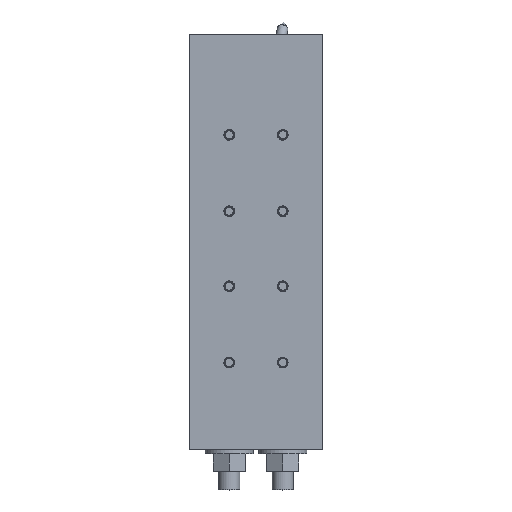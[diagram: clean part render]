
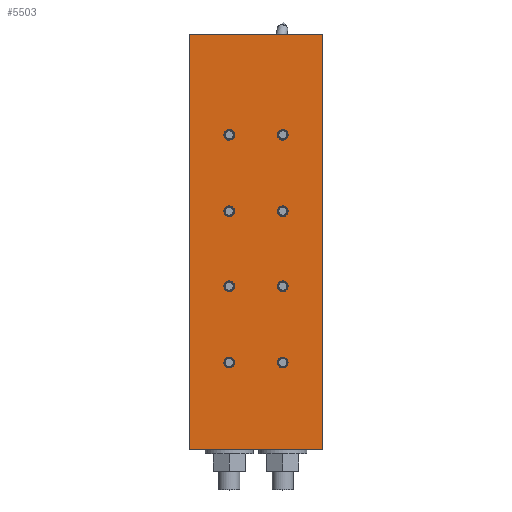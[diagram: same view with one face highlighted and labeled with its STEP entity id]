
A CAD part, top view. The second image highlights one B-rep face of the part: STEP entity #5503.
In plain terms, the highlighted planar face has unit normal (0, 0, 1) as drawn and (0, -1, 0) by its records, which use the part's own axes.
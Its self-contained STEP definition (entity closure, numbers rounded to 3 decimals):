
#515=CIRCLE('',#6527,3.324);
#516=CIRCLE('',#6528,3.324);
#517=CIRCLE('',#6529,3.324);
#518=CIRCLE('',#6530,3.324);
#519=CIRCLE('',#6531,3.324);
#520=CIRCLE('',#6532,3.324);
#521=CIRCLE('',#6533,3.324);
#522=CIRCLE('',#6534,3.324);
#1757=ORIENTED_EDGE('',*,*,#2468,.F.);
#1758=ORIENTED_EDGE('',*,*,#2469,.F.);
#1759=ORIENTED_EDGE('',*,*,#2470,.F.);
#1760=ORIENTED_EDGE('',*,*,#2471,.F.);
#1761=ORIENTED_EDGE('',*,*,#2472,.F.);
#1762=ORIENTED_EDGE('',*,*,#2473,.F.);
#1763=ORIENTED_EDGE('',*,*,#2474,.F.);
#1764=ORIENTED_EDGE('',*,*,#2475,.F.);
#1765=ORIENTED_EDGE('',*,*,#2456,.T.);
#1766=ORIENTED_EDGE('',*,*,#2460,.T.);
#1767=ORIENTED_EDGE('',*,*,#2463,.T.);
#1768=ORIENTED_EDGE('',*,*,#2466,.T.);
#2456=EDGE_CURVE('',#2973,#2974,#3393,.T.);
#2460=EDGE_CURVE('',#2974,#2977,#3397,.T.);
#2463=EDGE_CURVE('',#2977,#2979,#3400,.T.);
#2466=EDGE_CURVE('',#2979,#2973,#3403,.T.);
#2468=EDGE_CURVE('',#2981,#2981,#515,.T.);
#2469=EDGE_CURVE('',#2982,#2982,#516,.T.);
#2470=EDGE_CURVE('',#2983,#2983,#517,.T.);
#2471=EDGE_CURVE('',#2984,#2984,#518,.T.);
#2472=EDGE_CURVE('',#2985,#2985,#519,.T.);
#2473=EDGE_CURVE('',#2986,#2986,#520,.T.);
#2474=EDGE_CURVE('',#2987,#2987,#521,.T.);
#2475=EDGE_CURVE('',#2988,#2988,#522,.T.);
#2973=VERTEX_POINT('',#9547);
#2974=VERTEX_POINT('',#9548);
#2977=VERTEX_POINT('',#9556);
#2979=VERTEX_POINT('',#9562);
#2981=VERTEX_POINT('',#9572);
#2982=VERTEX_POINT('',#9574);
#2983=VERTEX_POINT('',#9576);
#2984=VERTEX_POINT('',#9578);
#2985=VERTEX_POINT('',#9580);
#2986=VERTEX_POINT('',#9582);
#2987=VERTEX_POINT('',#9584);
#2988=VERTEX_POINT('',#9586);
#3393=LINE('',#9546,#3813);
#3397=LINE('',#9555,#3817);
#3400=LINE('',#9561,#3820);
#3403=LINE('',#9567,#3823);
#3813=VECTOR('',#8022,1000.);
#3817=VECTOR('',#8028,1000.);
#3820=VECTOR('',#8033,1000.);
#3823=VECTOR('',#8038,1000.);
#4392=EDGE_LOOP('',(#1757));
#4393=EDGE_LOOP('',(#1758));
#4394=EDGE_LOOP('',(#1759));
#4395=EDGE_LOOP('',(#1760));
#4396=EDGE_LOOP('',(#1761));
#4397=EDGE_LOOP('',(#1762));
#4398=EDGE_LOOP('',(#1763));
#4399=EDGE_LOOP('',(#1764));
#4400=EDGE_LOOP('',(#1765,#1766,#1767,#1768));
#4982=FACE_BOUND('',#4392,.T.);
#4983=FACE_BOUND('',#4393,.T.);
#4984=FACE_BOUND('',#4394,.T.);
#4985=FACE_BOUND('',#4395,.T.);
#4986=FACE_BOUND('',#4396,.T.);
#4987=FACE_BOUND('',#4397,.T.);
#4988=FACE_BOUND('',#4398,.T.);
#4989=FACE_BOUND('',#4399,.T.);
#4990=FACE_BOUND('',#4400,.T.);
#5188=PLANE('',#6526);
#5503=ADVANCED_FACE('',(#4982,#4983,#4984,#4985,#4986,#4987,#4988,#4989,
#4990),#5188,.T.);
#6526=AXIS2_PLACEMENT_3D('',#9570,#8042,#8043);
#6527=AXIS2_PLACEMENT_3D('',#9571,#8044,#8045);
#6528=AXIS2_PLACEMENT_3D('',#9573,#8046,#8047);
#6529=AXIS2_PLACEMENT_3D('',#9575,#8048,#8049);
#6530=AXIS2_PLACEMENT_3D('',#9577,#8050,#8051);
#6531=AXIS2_PLACEMENT_3D('',#9579,#8052,#8053);
#6532=AXIS2_PLACEMENT_3D('',#9581,#8054,#8055);
#6533=AXIS2_PLACEMENT_3D('',#9583,#8056,#8057);
#6534=AXIS2_PLACEMENT_3D('',#9585,#8058,#8059);
#8022=DIRECTION('',(1.,0.,0.));
#8028=DIRECTION('',(0.,0.,1.));
#8033=DIRECTION('',(-1.,0.,0.));
#8038=DIRECTION('',(0.,0.,-1.));
#8042=DIRECTION('',(0.,-1.,0.));
#8043=DIRECTION('',(0.,0.,-1.));
#8044=DIRECTION('',(0.,-1.,0.));
#8045=DIRECTION('',(1.,0.,0.));
#8046=DIRECTION('',(0.,-1.,0.));
#8047=DIRECTION('',(1.,0.,0.));
#8048=DIRECTION('',(0.,-1.,0.));
#8049=DIRECTION('',(1.,0.,0.));
#8050=DIRECTION('',(0.,-1.,0.));
#8051=DIRECTION('',(1.,0.,0.));
#8052=DIRECTION('',(0.,-1.,0.));
#8053=DIRECTION('',(1.,0.,0.));
#8054=DIRECTION('',(0.,-1.,0.));
#8055=DIRECTION('',(1.,0.,0.));
#8056=DIRECTION('',(0.,-1.,0.));
#8057=DIRECTION('',(1.,0.,0.));
#8058=DIRECTION('',(0.,-1.,0.));
#8059=DIRECTION('',(1.,0.,0.));
#9546=CARTESIAN_POINT('',(-50.,0.,-155.));
#9547=CARTESIAN_POINT('',(-50.,0.,-155.));
#9548=CARTESIAN_POINT('',(50.,0.,-155.));
#9555=CARTESIAN_POINT('',(50.,0.,-155.));
#9556=CARTESIAN_POINT('',(50.,0.,155.));
#9561=CARTESIAN_POINT('',(50.,0.,155.));
#9562=CARTESIAN_POINT('',(-50.,0.,155.));
#9567=CARTESIAN_POINT('',(-50.,0.,155.));
#9570=CARTESIAN_POINT('',(0.,0.,0.));
#9571=CARTESIAN_POINT('',(-20.,0.,-80.));
#9572=CARTESIAN_POINT('',(-16.677,0.,-80.));
#9573=CARTESIAN_POINT('',(-20.,0.,-23.));
#9574=CARTESIAN_POINT('',(-16.677,0.,-23.));
#9575=CARTESIAN_POINT('',(-20.,0.,33.));
#9576=CARTESIAN_POINT('',(-16.677,0.,33.));
#9577=CARTESIAN_POINT('',(-20.,0.,90.));
#9578=CARTESIAN_POINT('',(-16.677,0.,90.));
#9579=CARTESIAN_POINT('',(20.,0.,90.));
#9580=CARTESIAN_POINT('',(23.324,0.,90.));
#9581=CARTESIAN_POINT('',(20.,0.,33.));
#9582=CARTESIAN_POINT('',(23.324,0.,33.));
#9583=CARTESIAN_POINT('',(20.,0.,-23.));
#9584=CARTESIAN_POINT('',(23.324,0.,-23.));
#9585=CARTESIAN_POINT('',(20.,0.,-80.));
#9586=CARTESIAN_POINT('',(23.324,0.,-80.));
